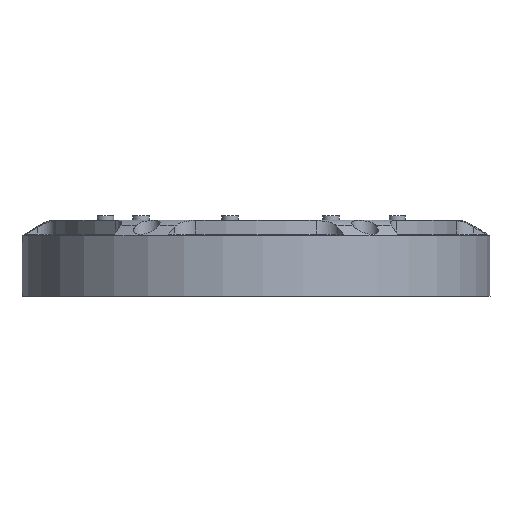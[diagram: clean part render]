
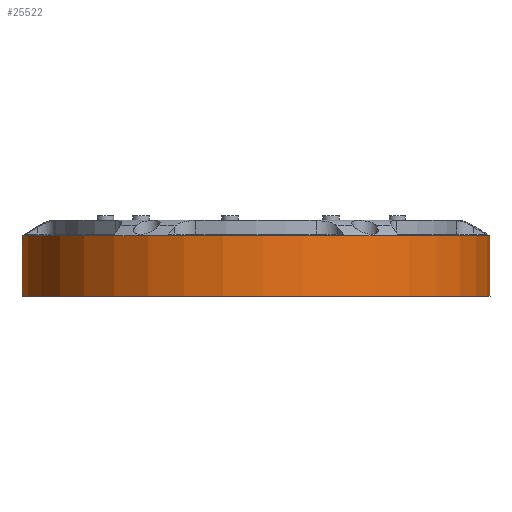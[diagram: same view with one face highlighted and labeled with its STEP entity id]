
A CAD part, front view. The second image highlights one B-rep face of the part: STEP entity #25522.
In plain terms, the highlighted cylindrical face has radius 126.5 mm (diameter 253 mm), a full revolution.
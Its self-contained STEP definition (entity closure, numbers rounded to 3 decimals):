
#1311=B_SPLINE_CURVE_WITH_KNOTS('',3,(#42575,#42576,#42577,#42578),
 .UNSPECIFIED.,.F.,.F.,(4,4),(0.,0.001),
 .UNSPECIFIED.);
#1312=B_SPLINE_CURVE_WITH_KNOTS('',3,(#42582,#42583,#42584,#42585),
 .UNSPECIFIED.,.F.,.F.,(4,4),(0.,0.001),
 .UNSPECIFIED.);
#3863=LINE('',#42573,#4619);
#3864=LINE('',#42587,#4620);
#4619=VECTOR('',#33961,1000.);
#4620=VECTOR('',#33964,1000.);
#7578=ORIENTED_EDGE('',*,*,#14715,.F.);
#7579=ORIENTED_EDGE('',*,*,#14566,.F.);
#7580=ORIENTED_EDGE('',*,*,#14716,.T.);
#7581=ORIENTED_EDGE('',*,*,#14717,.F.);
#7582=ORIENTED_EDGE('',*,*,#14718,.T.);
#7583=ORIENTED_EDGE('',*,*,#14719,.F.);
#7584=ORIENTED_EDGE('',*,*,#14720,.T.);
#14566=EDGE_CURVE('',#18392,#18393,#20531,.F.);
#14715=EDGE_CURVE('',#18489,#18489,#20584,.F.);
#14716=EDGE_CURVE('',#18392,#18490,#3863,.F.);
#14717=EDGE_CURVE('',#18491,#18490,#1311,.T.);
#14718=EDGE_CURVE('',#18491,#18492,#20585,.F.);
#14719=EDGE_CURVE('',#18493,#18492,#1312,.T.);
#14720=EDGE_CURVE('',#18493,#18393,#3864,.T.);
#18392=VERTEX_POINT('',#41985);
#18393=VERTEX_POINT('',#41987);
#18489=VERTEX_POINT('',#42572);
#18490=VERTEX_POINT('',#42574);
#18491=VERTEX_POINT('',#42579);
#18492=VERTEX_POINT('',#42581);
#18493=VERTEX_POINT('',#42586);
#20531=CIRCLE('',#31032,126.5);
#20584=CIRCLE('',#31125,126.5);
#20585=CIRCLE('',#31126,126.5);
#21553=EDGE_LOOP('',(#7578));
#21554=EDGE_LOOP('',(#7579,#7580,#7581,#7582,#7583,#7584));
#23342=FACE_BOUND('',#21553,.T.);
#23343=FACE_BOUND('',#21554,.T.);
#24766=CYLINDRICAL_SURFACE('',#31124,126.5);
#25522=ADVANCED_FACE('',(#23342,#23343),#24766,.T.);
#31032=AXIS2_PLACEMENT_3D('',#41986,#33736,#33737);
#31124=AXIS2_PLACEMENT_3D('',#42570,#33957,#33958);
#31125=AXIS2_PLACEMENT_3D('',#42571,#33959,#33960);
#31126=AXIS2_PLACEMENT_3D('',#42580,#33962,#33963);
#33736=DIRECTION('',(0.,0.,-1.));
#33737=DIRECTION('',(0.,1.,0.));
#33957=DIRECTION('',(0.,0.,1.));
#33958=DIRECTION('',(0.,-1.,0.));
#33959=DIRECTION('',(0.,0.,1.));
#33960=DIRECTION('',(1.,0.,0.));
#33961=DIRECTION('',(0.,0.,1.));
#33962=DIRECTION('',(0.,0.,1.));
#33963=DIRECTION('',(1.,0.,0.));
#33964=DIRECTION('',(0.,0.,1.));
#41985=CARTESIAN_POINT('',(-126.253,-7.899,49.337));
#41986=CARTESIAN_POINT('',(0.,0.,49.337));
#41987=CARTESIAN_POINT('',(-126.253,7.899,49.337));
#42570=CARTESIAN_POINT('',(0.,0.,0.762));
#42571=CARTESIAN_POINT('',(0.,0.,16.713));
#42572=CARTESIAN_POINT('',(126.5,0.,16.713));
#42573=CARTESIAN_POINT('',(-126.253,-7.899,49.337));
#42574=CARTESIAN_POINT('',(-126.253,-7.899,47.244));
#42575=CARTESIAN_POINT('',(-126.298,-7.139,46.482));
#42576=CARTESIAN_POINT('',(-126.276,-7.54,46.482));
#42577=CARTESIAN_POINT('',(-126.253,-7.899,46.841));
#42578=CARTESIAN_POINT('',(-126.253,-7.899,47.244));
#42579=CARTESIAN_POINT('',(-126.298,-7.139,46.482));
#42580=CARTESIAN_POINT('',(0.,0.,46.482));
#42581=CARTESIAN_POINT('',(-126.298,7.139,46.482));
#42582=CARTESIAN_POINT('',(-126.253,7.899,47.244));
#42583=CARTESIAN_POINT('',(-126.253,7.899,46.841));
#42584=CARTESIAN_POINT('',(-126.276,7.54,46.482));
#42585=CARTESIAN_POINT('',(-126.298,7.139,46.482));
#42586=CARTESIAN_POINT('',(-126.253,7.899,47.244));
#42587=CARTESIAN_POINT('',(-126.253,7.899,47.244));
